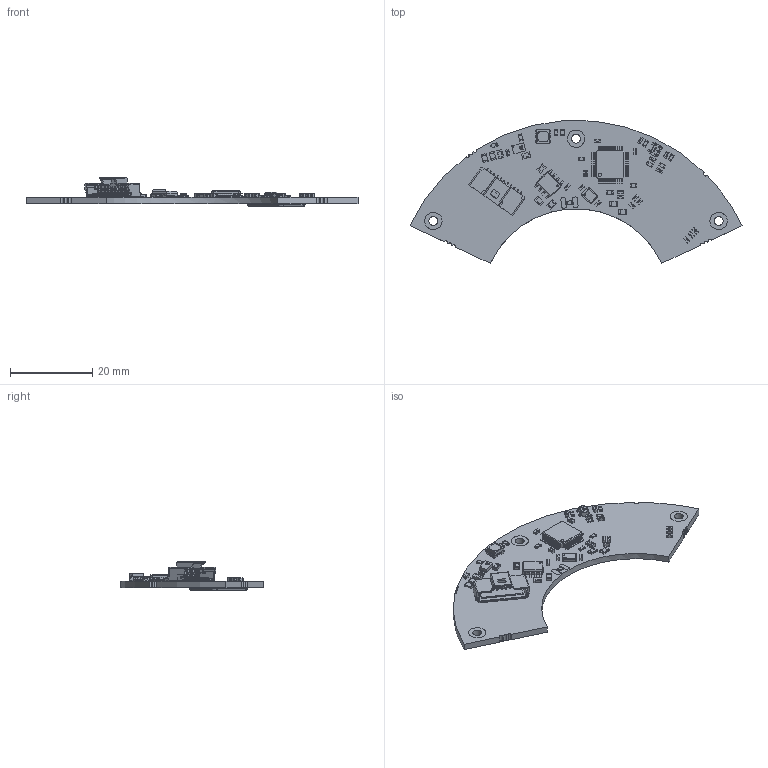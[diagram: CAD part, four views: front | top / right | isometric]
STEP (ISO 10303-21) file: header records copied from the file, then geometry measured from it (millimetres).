
FILE_DESCRIPTION (( 'STEP AP214' ), '1' );
FILE_NAME ('MB064-E_2.STEP', '2019-07-23T12:57:53', ( '' ), ( '' ), 'SwSTEP 2.0', 'SolidWorks 2016', '' );
FILE_SCHEMA (( 'AUTOMOTIVE_DESIGN' ));
Length unit declared in the file: millimetre
Products named in the file (1): MB064-E_2
Bounding box: 80.66 x 34.67 x 6.93 mm (x, y, z)
Volume: 2946.1 mm3; surface area: 5201 mm2
Topology: 119 solids, 119 shells, 4901 faces, 13375 edges, 8802 vertices
Faces by surface type: plane 3417, cylinder 936, bspline 456, cone 92
Entity records: 179115 total; most frequent: CARTESIAN_POINT 53756, ORIENTED_EDGE 26382, DIRECTION 21105, EDGE_CURVE 13191, LINE 9233, VECTOR 9233, VERTEX_POINT 8802, AXIS2_PLACEMENT_3D 5936
